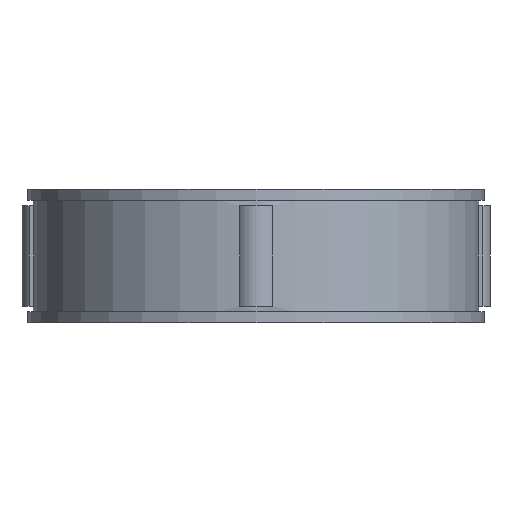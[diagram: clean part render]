
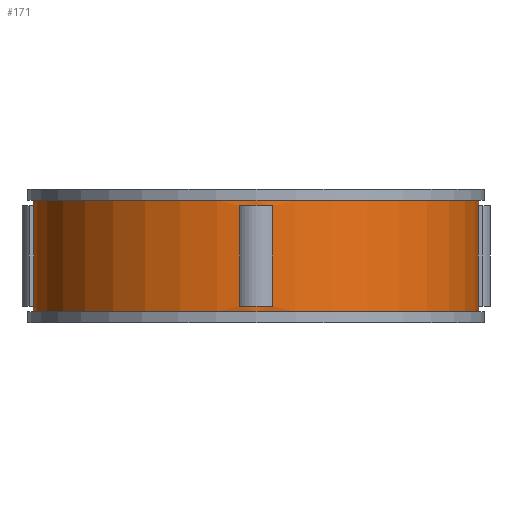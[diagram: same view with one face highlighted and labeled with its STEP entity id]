
A CAD part, front view. The second image highlights one B-rep face of the part: STEP entity #171.
In plain terms, the highlighted cylindrical face has radius 20 mm (diameter 40 mm), a full revolution.
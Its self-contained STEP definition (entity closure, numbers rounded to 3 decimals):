
#171=ADVANCED_FACE('',(#359,#360,#361,#362,#363,#364),#219,.T.);
#219=CYLINDRICAL_SURFACE('',#882,20.);
#231=LINE('',#1207,#295);
#232=LINE('',#1212,#296);
#233=LINE('',#1215,#297);
#234=LINE('',#1220,#298);
#235=LINE('',#1223,#299);
#236=LINE('',#1228,#300);
#237=LINE('',#1234,#301);
#238=LINE('',#1238,#302);
#295=VECTOR('',#966,1.);
#296=VECTOR('',#969,1.);
#297=VECTOR('',#972,1.);
#298=VECTOR('',#975,1.);
#299=VECTOR('',#978,1.);
#300=VECTOR('',#981,1.);
#301=VECTOR('',#986,1.);
#302=VECTOR('',#989,1.);
#359=FACE_BOUND('',#383,.T.);
#360=FACE_BOUND('',#384,.T.);
#361=FACE_BOUND('',#385,.T.);
#362=FACE_BOUND('',#386,.T.);
#363=FACE_BOUND('',#387,.T.);
#364=FACE_BOUND('',#388,.T.);
#383=EDGE_LOOP('',(#447));
#384=EDGE_LOOP('',(#448));
#385=EDGE_LOOP('',(#449,#450,#451,#452));
#386=EDGE_LOOP('',(#453,#454,#455,#456));
#387=EDGE_LOOP('',(#457,#458,#459,#460));
#388=EDGE_LOOP('',(#461,#462,#463,#464));
#447=ORIENTED_EDGE('',*,*,#727,.F.);
#448=ORIENTED_EDGE('',*,*,#728,.T.);
#449=ORIENTED_EDGE('',*,*,#729,.F.);
#450=ORIENTED_EDGE('',*,*,#730,.T.);
#451=ORIENTED_EDGE('',*,*,#731,.F.);
#452=ORIENTED_EDGE('',*,*,#732,.F.);
#453=ORIENTED_EDGE('',*,*,#733,.F.);
#454=ORIENTED_EDGE('',*,*,#734,.T.);
#455=ORIENTED_EDGE('',*,*,#735,.F.);
#456=ORIENTED_EDGE('',*,*,#736,.F.);
#457=ORIENTED_EDGE('',*,*,#737,.F.);
#458=ORIENTED_EDGE('',*,*,#738,.T.);
#459=ORIENTED_EDGE('',*,*,#739,.F.);
#460=ORIENTED_EDGE('',*,*,#740,.F.);
#461=ORIENTED_EDGE('',*,*,#741,.F.);
#462=ORIENTED_EDGE('',*,*,#742,.T.);
#463=ORIENTED_EDGE('',*,*,#743,.T.);
#464=ORIENTED_EDGE('',*,*,#744,.T.);
#655=VERTEX_POINT('',#1204);
#656=VERTEX_POINT('',#1206);
#657=VERTEX_POINT('',#1208);
#658=VERTEX_POINT('',#1209);
#659=VERTEX_POINT('',#1211);
#660=VERTEX_POINT('',#1213);
#661=VERTEX_POINT('',#1216);
#662=VERTEX_POINT('',#1217);
#663=VERTEX_POINT('',#1219);
#664=VERTEX_POINT('',#1221);
#665=VERTEX_POINT('',#1224);
#666=VERTEX_POINT('',#1225);
#667=VERTEX_POINT('',#1227);
#668=VERTEX_POINT('',#1229);
#669=VERTEX_POINT('',#1232);
#670=VERTEX_POINT('',#1233);
#671=VERTEX_POINT('',#1235);
#672=VERTEX_POINT('',#1237);
#727=EDGE_CURVE('',#655,#655,#831,.T.);
#728=EDGE_CURVE('',#656,#656,#832,.T.);
#729=EDGE_CURVE('',#657,#658,#231,.T.);
#730=EDGE_CURVE('',#657,#659,#833,.T.);
#731=EDGE_CURVE('',#660,#659,#232,.T.);
#732=EDGE_CURVE('',#658,#660,#834,.T.);
#733=EDGE_CURVE('',#661,#662,#233,.T.);
#734=EDGE_CURVE('',#661,#663,#835,.T.);
#735=EDGE_CURVE('',#664,#663,#234,.T.);
#736=EDGE_CURVE('',#662,#664,#836,.T.);
#737=EDGE_CURVE('',#665,#666,#235,.T.);
#738=EDGE_CURVE('',#665,#667,#837,.T.);
#739=EDGE_CURVE('',#668,#667,#236,.T.);
#740=EDGE_CURVE('',#666,#668,#838,.T.);
#741=EDGE_CURVE('',#669,#670,#839,.T.);
#742=EDGE_CURVE('',#669,#671,#237,.T.);
#743=EDGE_CURVE('',#671,#672,#840,.T.);
#744=EDGE_CURVE('',#672,#670,#238,.T.);
#831=CIRCLE('',#872,20.);
#832=CIRCLE('',#873,20.);
#833=CIRCLE('',#874,20.);
#834=CIRCLE('',#875,20.);
#835=CIRCLE('',#876,20.);
#836=CIRCLE('',#877,20.);
#837=CIRCLE('',#878,20.);
#838=CIRCLE('',#879,20.);
#839=CIRCLE('',#880,20.);
#840=CIRCLE('',#881,20.);
#872=AXIS2_PLACEMENT_3D('',#1203,#962,#963);
#873=AXIS2_PLACEMENT_3D('',#1205,#964,#965);
#874=AXIS2_PLACEMENT_3D('',#1210,#967,#968);
#875=AXIS2_PLACEMENT_3D('',#1214,#970,#971);
#876=AXIS2_PLACEMENT_3D('',#1218,#973,#974);
#877=AXIS2_PLACEMENT_3D('',#1222,#976,#977);
#878=AXIS2_PLACEMENT_3D('',#1226,#979,#980);
#879=AXIS2_PLACEMENT_3D('',#1230,#982,#983);
#880=AXIS2_PLACEMENT_3D('',#1231,#984,#985);
#881=AXIS2_PLACEMENT_3D('',#1236,#987,#988);
#882=AXIS2_PLACEMENT_3D('',#1239,#990,#991);
#962=DIRECTION('',(0.,0.,1.));
#963=DIRECTION('',(1.,0.,0.));
#964=DIRECTION('',(0.,0.,1.));
#965=DIRECTION('',(1.,0.,0.));
#966=DIRECTION('',(0.,0.,-1.));
#967=DIRECTION('',(0.,0.,1.));
#968=DIRECTION('',(1.,0.,0.));
#969=DIRECTION('',(0.,0.,1.));
#970=DIRECTION('',(0.,0.,1.));
#971=DIRECTION('',(1.,0.,0.));
#972=DIRECTION('',(0.,0.,-1.));
#973=DIRECTION('',(0.,0.,1.));
#974=DIRECTION('',(1.,0.,0.));
#975=DIRECTION('',(0.,0.,1.));
#976=DIRECTION('',(0.,0.,1.));
#977=DIRECTION('',(1.,0.,0.));
#978=DIRECTION('',(0.,0.,-1.));
#979=DIRECTION('',(0.,0.,1.));
#980=DIRECTION('',(1.,0.,0.));
#981=DIRECTION('',(0.,0.,1.));
#982=DIRECTION('',(0.,0.,1.));
#983=DIRECTION('',(1.,0.,0.));
#984=DIRECTION('',(0.,0.,-1.));
#985=DIRECTION('',(-1.,0.,0.));
#986=DIRECTION('',(0.,0.,-1.));
#987=DIRECTION('',(0.,0.,-1.));
#988=DIRECTION('',(-1.,0.,0.));
#989=DIRECTION('',(0.,0.,1.));
#990=DIRECTION('',(0.,0.,-1.));
#991=DIRECTION('',(-1.,0.,0.));
#1203=CARTESIAN_POINT('',(0.,0.,11.));
#1204=CARTESIAN_POINT('',(20.,0.,11.));
#1205=CARTESIAN_POINT('',(0.,0.,1.));
#1206=CARTESIAN_POINT('',(20.,0.,1.));
#1207=CARTESIAN_POINT('',(19.946,-1.471,12.));
#1208=CARTESIAN_POINT('',(19.946,-1.471,10.5));
#1209=CARTESIAN_POINT('',(19.946,-1.471,1.5));
#1210=CARTESIAN_POINT('',(0.,0.,10.5));
#1211=CARTESIAN_POINT('',(19.946,1.471,10.5));
#1212=CARTESIAN_POINT('',(19.946,1.471,12.));
#1213=CARTESIAN_POINT('',(19.946,1.471,1.5));
#1214=CARTESIAN_POINT('',(0.,0.,1.5));
#1215=CARTESIAN_POINT('',(1.471,19.946,12.));
#1216=CARTESIAN_POINT('',(1.471,19.946,10.5));
#1217=CARTESIAN_POINT('',(1.471,19.946,1.5));
#1218=CARTESIAN_POINT('',(0.,0.,10.5));
#1219=CARTESIAN_POINT('',(-1.471,19.946,10.5));
#1220=CARTESIAN_POINT('',(-1.471,19.946,12.));
#1221=CARTESIAN_POINT('',(-1.471,19.946,1.5));
#1222=CARTESIAN_POINT('',(0.,0.,1.5));
#1223=CARTESIAN_POINT('',(-19.946,1.471,12.));
#1224=CARTESIAN_POINT('',(-19.946,1.471,10.5));
#1225=CARTESIAN_POINT('',(-19.946,1.471,1.5));
#1226=CARTESIAN_POINT('',(0.,0.,10.5));
#1227=CARTESIAN_POINT('',(-19.946,-1.471,10.5));
#1228=CARTESIAN_POINT('',(-19.946,-1.471,12.));
#1229=CARTESIAN_POINT('',(-19.946,-1.471,1.5));
#1230=CARTESIAN_POINT('',(0.,0.,1.5));
#1231=CARTESIAN_POINT('',(0.,0.,10.5));
#1232=CARTESIAN_POINT('',(1.471,-19.946,10.5));
#1233=CARTESIAN_POINT('',(-1.471,-19.946,10.5));
#1234=CARTESIAN_POINT('',(1.471,-19.946,12.));
#1235=CARTESIAN_POINT('',(1.471,-19.946,1.5));
#1236=CARTESIAN_POINT('',(0.,0.,1.5));
#1237=CARTESIAN_POINT('',(-1.471,-19.946,1.5));
#1238=CARTESIAN_POINT('',(-1.471,-19.946,12.));
#1239=CARTESIAN_POINT('',(0.,0.,12.));
